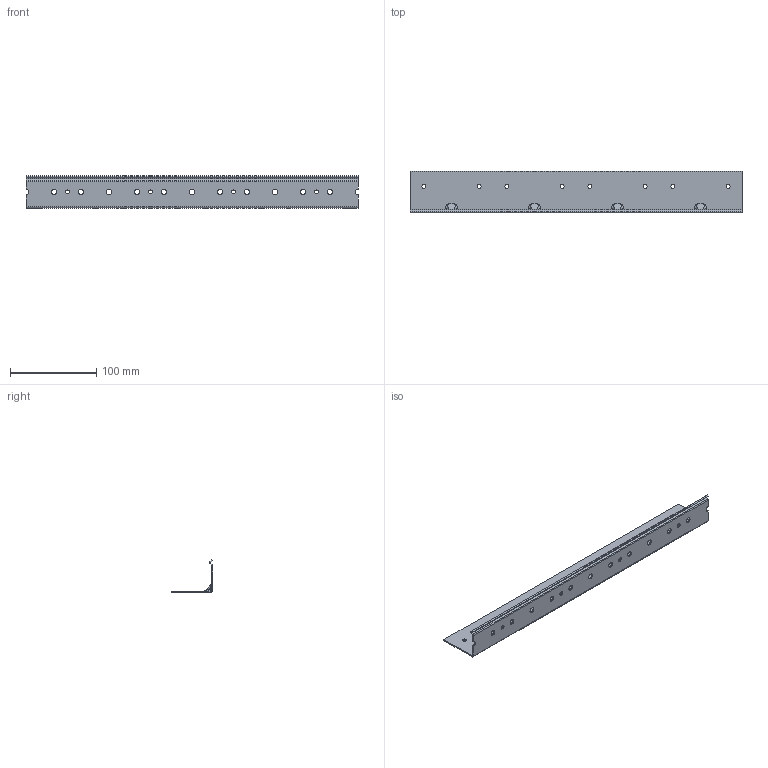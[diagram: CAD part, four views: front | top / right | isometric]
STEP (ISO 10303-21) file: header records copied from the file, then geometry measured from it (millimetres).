
FILE_DESCRIPTION (( 'STEP AP203' ), '1' );
FILE_NAME ('820_0384.STEP', '2023-06-06T13:25:50', ( '' ), ( '' ), 'SwSTEP 2.0', 'SolidWorks 2022', '' );
FILE_SCHEMA (( 'CONFIG_CONTROL_DESIGN' ));
Length unit declared in the file: millimetre
Products named in the file (1): 820_0384
Bounding box: 384 x 48 x 37.84 mm (x, y, z)
Volume: 49466.5 mm3; surface area: 66159.8 mm2
Topology: 1 solids, 1 shells, 152 faces, 378 edges, 220 vertices
Faces by surface type: cylinder 90, plane 38, bspline 24
Entity records: 5171 total; most frequent: CARTESIAN_POINT 1583, ORIENTED_EDGE 740, DIRECTION 728, EDGE_CURVE 370, AXIS2_PLACEMENT_3D 277, VERTEX_POINT 220, EDGE_LOOP 198, VECTOR 174
